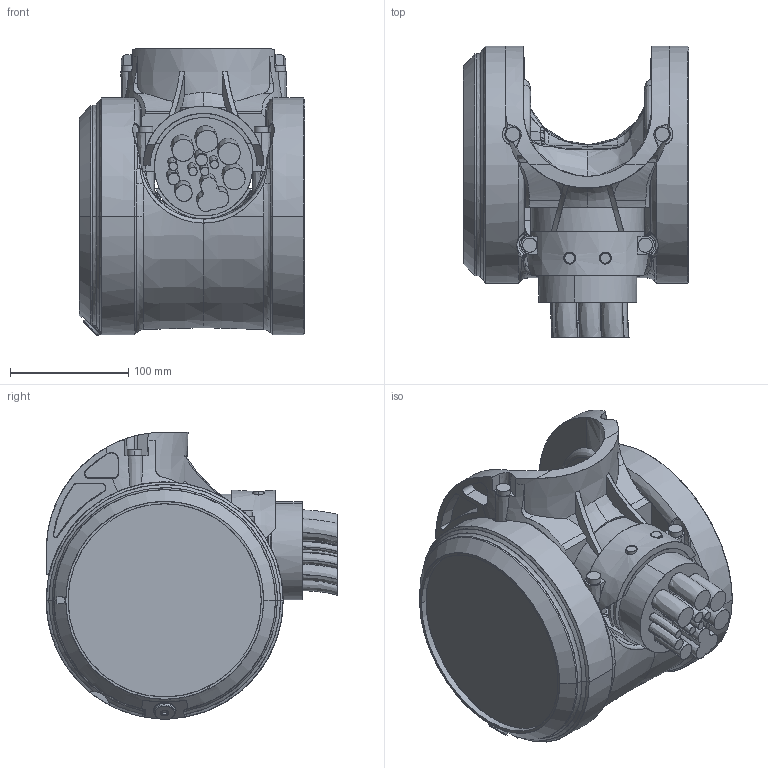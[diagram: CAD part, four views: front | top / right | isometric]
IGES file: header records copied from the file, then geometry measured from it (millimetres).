
Start section: SolidWorks IGES file using analytic representation for surfaces
Global section: file name: C:\Data\SAP_DOC\IRB6740_lightweight\6740\IRB6740-LID-MH_220kg-320_OC_01_SW_J\IRB6740-LID-MH_220kg-320_OC_01_IGES_J\IRB6740-LID_220kg-320_OC_00_LINK06_CABLE.igs; native system: SolidWorks 2024; preprocessor: SolidWorks 2024; author: SEJAOLS6; date: 260513.070831; units: millimetre
Bounding box: 190.5 x 246.09 x 242.9 mm (x, y, z)
Surface area: 351605.6 mm2 (no closed solid volume)
Topology: 0 solids, 0 shells, 750 faces, 10983 edges, 10956 vertices
Faces by surface type: bspline 448, revolution 302
